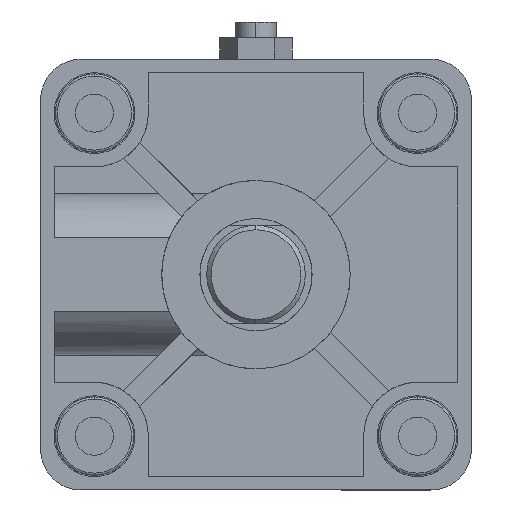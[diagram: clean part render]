
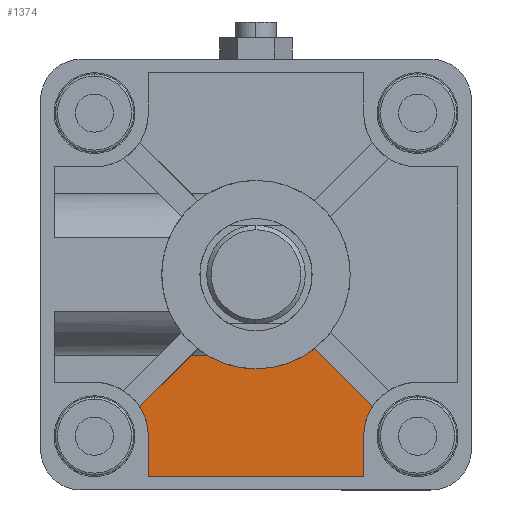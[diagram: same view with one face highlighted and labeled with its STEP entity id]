
A CAD part, left-side view. The second image highlights one B-rep face of the part: STEP entity #1374.
In plain terms, the highlighted planar face has unit normal (-1, 0, 0) as drawn and (1, 0, 0) by its records, which use the part's own axes.
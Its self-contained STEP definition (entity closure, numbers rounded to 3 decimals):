
#19 = CIRCLE ( 'NONE', #2111, 12. ) ;
#147 = ORIENTED_EDGE ( 'NONE', *, *, #1512, .T. ) ;
#230 = EDGE_LOOP ( 'NONE', ( #585, #1063, #147, #2708, #4538, #9161, #2024, #6259, #7341, #7104 ) ) ;
#585 = ORIENTED_EDGE ( 'NONE', *, *, #992, .F. ) ;
#707 = CARTESIAN_POINT ( 'NONE',  ( -3., -24., 45. ) ) ;
#847 = VECTOR ( 'NONE', #7752, 1000. ) ;
#992 = EDGE_CURVE ( 'NONE', #1064, #9183, #6299, .T. ) ;
#1063 = ORIENTED_EDGE ( 'NONE', *, *, #9193, .T. ) ;
#1064 = VERTEX_POINT ( 'NONE', #1955 ) ;
#1077 = CARTESIAN_POINT ( 'NONE',  ( -3., -24., 36. ) ) ;
#1323 = LINE ( 'NONE', #4801, #8036 ) ;
#1374 = ADVANCED_FACE ( 'NONE', ( #2114 ), #2410, .T. ) ;
#1453 = CARTESIAN_POINT ( 'NONE',  ( -3., 24., 36. ) ) ;
#1512 = EDGE_CURVE ( 'NONE', #6910, #3041, #6882, .T. ) ;
#1622 = VECTOR ( 'NONE', #9284, 1000. ) ;
#1631 = CARTESIAN_POINT ( 'NONE',  ( -3., -24., 0. ) ) ;
#1794 = CARTESIAN_POINT ( 'NONE',  ( -3., 11.225, 17.748 ) ) ;
#1926 = CARTESIAN_POINT ( 'NONE',  ( -3., -36., 36. ) ) ;
#1949 = CARTESIAN_POINT ( 'NONE',  ( -3., 1.768, 1.768 ) ) ;
#1955 = CARTESIAN_POINT ( 'NONE',  ( -3., -12.976, 16.511 ) ) ;
#2024 = ORIENTED_EDGE ( 'NONE', *, *, #3470, .T. ) ;
#2111 = AXIS2_PLACEMENT_3D ( 'NONE', #1926, #5833, #2542 ) ;
#2114 = FACE_OUTER_BOUND ( 'NONE', #230, .T. ) ;
#2285 = DIRECTION ( 'NONE',  ( 0., 0., -1. ) ) ;
#2289 = LINE ( 'NONE', #2738, #7982 ) ;
#2294 = DIRECTION ( 'NONE',  ( -1., 0., 0. ) ) ;
#2366 = AXIS2_PLACEMENT_3D ( 'NONE', #5304, #2294, #2285 ) ;
#2410 = PLANE ( 'NONE',  #5146 ) ;
#2420 = AXIS2_PLACEMENT_3D ( 'NONE', #6934, #3049, #2904 ) ;
#2542 = DIRECTION ( 'NONE',  ( 0., 0., -1. ) ) ;
#2636 = VERTEX_POINT ( 'NONE', #3805 ) ;
#2708 = ORIENTED_EDGE ( 'NONE', *, *, #6536, .F. ) ;
#2731 = DIRECTION ( 'NONE',  ( 0., 0., -1. ) ) ;
#2738 = CARTESIAN_POINT ( 'NONE',  ( -3., -48.166, 17.748 ) ) ;
#2904 = DIRECTION ( 'NONE',  ( 0., 0., -1. ) ) ;
#2986 = CARTESIAN_POINT ( 'NONE',  ( -3., -1.768, 1.768 ) ) ;
#3014 = CARTESIAN_POINT ( 'NONE',  ( -3., 0., 0. ) ) ;
#3041 = VERTEX_POINT ( 'NONE', #1794 ) ;
#3049 = DIRECTION ( 'NONE',  ( -1., 0., 0. ) ) ;
#3187 = CARTESIAN_POINT ( 'NONE',  ( -3., 0., 45. ) ) ;
#3268 = VERTEX_POINT ( 'NONE', #1077 ) ;
#3470 = EDGE_CURVE ( 'NONE', #7817, #8217, #1323, .T. ) ;
#3523 = EDGE_CURVE ( 'NONE', #9183, #3268, #19, .T. ) ;
#3632 = LINE ( 'NONE', #3187, #4931 ) ;
#3677 = EDGE_CURVE ( 'NONE', #2636, #9167, #8802, .T. ) ;
#3805 = CARTESIAN_POINT ( 'NONE',  ( -3., 25.933, 29.469 ) ) ;
#4384 = DIRECTION ( 'NONE',  ( 0., -1., 0. ) ) ;
#4538 = ORIENTED_EDGE ( 'NONE', *, *, #3677, .F. ) ;
#4801 = CARTESIAN_POINT ( 'NONE',  ( -3., 24., 0. ) ) ;
#4931 = VECTOR ( 'NONE', #4384, 1000. ) ;
#5146 = AXIS2_PLACEMENT_3D ( 'NONE', #3014, #7607, #5997 ) ;
#5303 = VERTEX_POINT ( 'NONE', #707 ) ;
#5304 = CARTESIAN_POINT ( 'NONE',  ( -3., 36., 36. ) ) ;
#5586 = DIRECTION ( 'NONE',  ( 0., -1., 0. ) ) ;
#5812 = AXIS2_PLACEMENT_3D ( 'NONE', #8115, #6757, #2731 ) ;
#5833 = DIRECTION ( 'NONE',  ( 1., 0., 0. ) ) ;
#5861 = VECTOR ( 'NONE', #7199, 1000. ) ;
#5981 = LINE ( 'NONE', #1631, #1622 ) ;
#5997 = DIRECTION ( 'NONE',  ( 0., 0., -1. ) ) ;
#6259 = ORIENTED_EDGE ( 'NONE', *, *, #8148, .T. ) ;
#6299 = LINE ( 'NONE', #1949, #5861 ) ;
#6536 = EDGE_CURVE ( 'NONE', #9167, #3041, #2289, .T. ) ;
#6708 = DIRECTION ( 'NONE',  ( 0., 0., 1. ) ) ;
#6757 = DIRECTION ( 'NONE',  ( -1., 0., 0. ) ) ;
#6882 = CIRCLE ( 'NONE', #2420, 21. ) ;
#6910 = VERTEX_POINT ( 'NONE', #8465 ) ;
#6933 = CARTESIAN_POINT ( 'NONE',  ( -3., -25.933, 29.469 ) ) ;
#6934 = CARTESIAN_POINT ( 'NONE',  ( -3., 0., 0. ) ) ;
#7104 = ORIENTED_EDGE ( 'NONE', *, *, #3523, .F. ) ;
#7199 = DIRECTION ( 'NONE',  ( 0., -0.707, 0.707 ) ) ;
#7203 = CARTESIAN_POINT ( 'NONE',  ( -3., 24., 45. ) ) ;
#7341 = ORIENTED_EDGE ( 'NONE', *, *, #7973, .F. ) ;
#7420 = CIRCLE ( 'NONE', #5812, 21. ) ;
#7607 = DIRECTION ( 'NONE',  ( 1., 0., 0. ) ) ;
#7644 = CARTESIAN_POINT ( 'NONE',  ( -3., 14.213, 17.748 ) ) ;
#7752 = DIRECTION ( 'NONE',  ( 0., -0.707, -0.707 ) ) ;
#7817 = VERTEX_POINT ( 'NONE', #1453 ) ;
#7973 = EDGE_CURVE ( 'NONE', #3268, #5303, #5981, .T. ) ;
#7982 = VECTOR ( 'NONE', #5586, 1000. ) ;
#8036 = VECTOR ( 'NONE', #6708, 1000. ) ;
#8115 = CARTESIAN_POINT ( 'NONE',  ( -3., 0., 0. ) ) ;
#8148 = EDGE_CURVE ( 'NONE', #8217, #5303, #3632, .T. ) ;
#8217 = VERTEX_POINT ( 'NONE', #7203 ) ;
#8287 = CIRCLE ( 'NONE', #2366, 12. ) ;
#8465 = CARTESIAN_POINT ( 'NONE',  ( -3., 0., 21. ) ) ;
#8802 = LINE ( 'NONE', #2986, #847 ) ;
#9161 = ORIENTED_EDGE ( 'NONE', *, *, #9258, .T. ) ;
#9167 = VERTEX_POINT ( 'NONE', #7644 ) ;
#9183 = VERTEX_POINT ( 'NONE', #6933 ) ;
#9193 = EDGE_CURVE ( 'NONE', #1064, #6910, #7420, .T. ) ;
#9258 = EDGE_CURVE ( 'NONE', #2636, #7817, #8287, .T. ) ;
#9284 = DIRECTION ( 'NONE',  ( 0., 0., 1. ) ) ;
